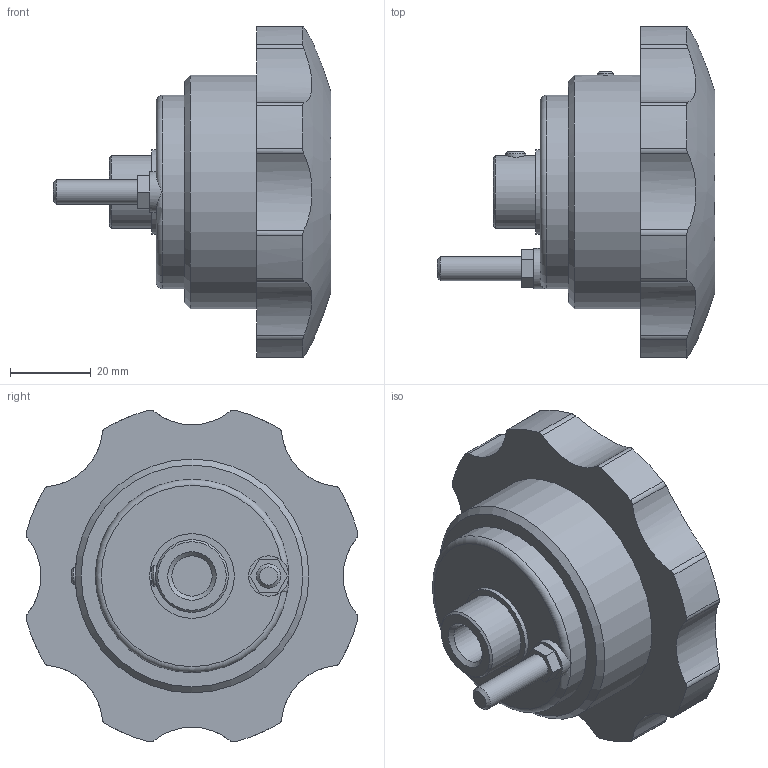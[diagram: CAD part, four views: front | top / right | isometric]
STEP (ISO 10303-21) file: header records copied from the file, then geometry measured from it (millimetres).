
FILE_DESCRIPTION( ( 'STEP AP203' ), '1' );
FILE_NAME( 'C:/Temp/Ganter_Step_05_03_2020/data/1_4/gn_577_9/Handwheel GN 577.9-85-B10.stp', '2020-03-05T10:54:54', ( 'License CC BY-ND 4.0' ), ( 'CADENAS' ), ' ', 'PARTsolutions', ' ' );
FILE_SCHEMA( ( 'CONFIG_CONTROL_DESIGN' ) );
Length unit declared in the file: millimetre
Products named in the file (1): _Handwheel GN 577.9-85-B10
Bounding box: 68.95 x 82.33 x 82.33 mm (x, y, z)
Volume: 100497.1 mm3; surface area: 23949.3 mm2
Topology: 1 solids, 1 shells, 99 faces, 247 edges, 162 vertices
Faces by surface type: plane 46, cylinder 44, cone 6, torus 2, bspline 1
Full cylindrical faces by diameter (mm): 4 x1, 5 x1, 6 x1, 10 x3, 18 x1, 21 x1, 48 x1, 48.2 x1, 49.8 x1, 58 x1
Entity records: 3294 total; most frequent: CARTESIAN_POINT 1010, DIRECTION 449, ORIENTED_EDGE 444, EDGE_CURVE 222, AXIS2_PLACEMENT_3D 166, VERTEX_POINT 157, EDGE_LOOP 131, LINE 117
